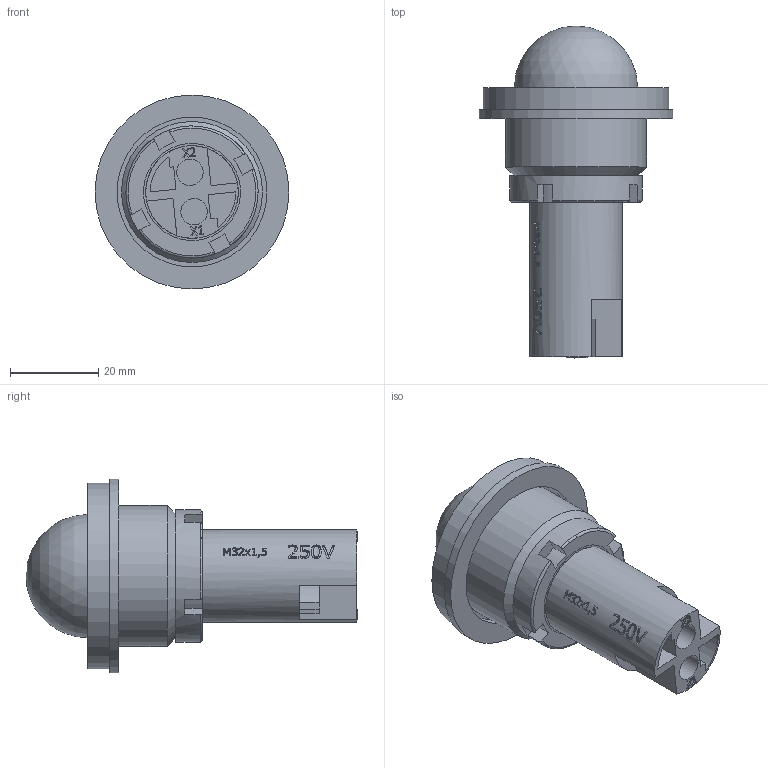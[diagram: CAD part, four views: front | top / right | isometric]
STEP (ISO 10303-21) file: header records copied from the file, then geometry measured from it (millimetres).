
FILE_DESCRIPTION((''),'2;1');
FILE_NAME('\\192.168.5.25\cortem_klient\INVENTOR БАЗА МОДЕЛЕЙ\Актуальная база моделей для отдела продаж\Элементы управления и индикации\ЛГВ\ЛГВ01К12.stp','2019-04-09T11:51:08',('A.S.Kozlov'),(''),'Autodesk Inventor 2012','Autodesk Inventor 2012','');
FILE_SCHEMA(('CONFIG_CONTROL_DESIGN'));
Length unit declared in the file: millimetre
Products named in the file (1): ЛГВ01К12_Внешний контур_1
Bounding box: 44 x 75.3 x 44 mm (x, y, z)
Surface area: 18198.2 mm2 (no closed solid volume)
Topology: 0 solids, 4 shells, 323 faces, 869 edges, 578 vertices
Faces by surface type: plane 170, bspline 110, cylinder 35, torus 4, cone 2, sphere 2
Full cylindrical faces by diameter (mm): 2.5 x2, 6 x2, 18.5 x1, 21 x2, 22 x1, 24 x2, 28 x2, 30 x1, 32 x1, 34 x1, 42 x1, 44 x1
Entity records: 34413 total; most frequent: CARTESIAN_POINT 26827, ORIENTED_EDGE 1684, DIRECTION 1077, EDGE_CURVE 842, VERTEX_POINT 572, VECTOR 455, LINE 455, EDGE_LOOP 376
